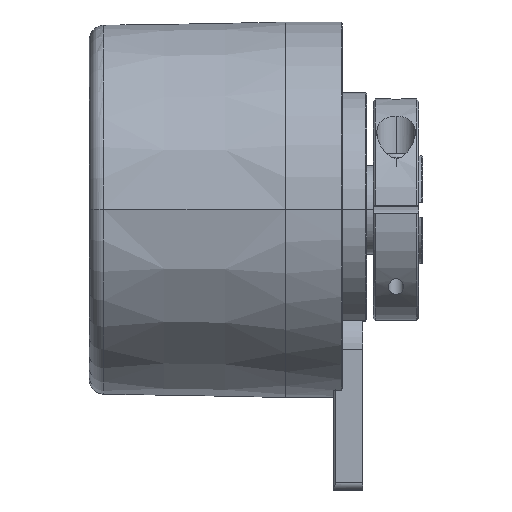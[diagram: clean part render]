
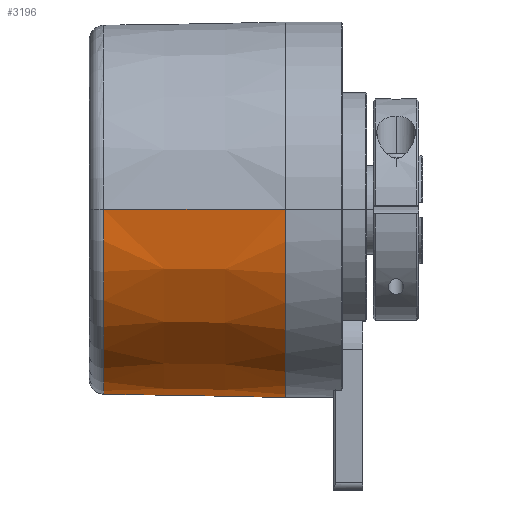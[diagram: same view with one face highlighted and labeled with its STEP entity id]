
A CAD part, top view. The second image highlights one B-rep face of the part: STEP entity #3196.
In plain terms, the highlighted conical face has half-angle 1 degrees and reference radius 25.4 mm.
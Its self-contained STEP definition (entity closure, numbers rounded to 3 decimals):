
#417 = ORIENTED_EDGE ( 'NONE', *, *, #3203, .T. ) ;
#439 = LINE ( 'NONE', #546, #545 ) ;
#450 = CARTESIAN_POINT ( 'NONE',  ( 5.5, 0., 25.4 ) ) ;
#486 = CARTESIAN_POINT ( 'NONE',  ( -19.035, 0., 24.972 ) ) ;
#544 = DIRECTION ( 'NONE',  ( 1., 0., 0.017 ) ) ;
#545 = VECTOR ( 'NONE', #544, 1000. ) ;
#546 = CARTESIAN_POINT ( 'NONE',  ( 5.5, 0., 25.4 ) ) ;
#2440 = CIRCLE ( 'NONE', #2616, 25.4 ) ;
#2612 = DIRECTION ( 'NONE',  ( 0., 0., -1. ) ) ;
#2614 = DIRECTION ( 'NONE',  ( -1., 0., 0. ) ) ;
#2615 = CARTESIAN_POINT ( 'NONE',  ( 5.5, 0., 0. ) ) ;
#2616 = AXIS2_PLACEMENT_3D ( 'NONE', #2615, #2614, #2612 ) ;
#2691 = B_SPLINE_CURVE_WITH_KNOTS ( 'NONE', 3,
 ( #3195, #3363, #3226, #3150 ),
 .UNSPECIFIED., .F., .F.,
 ( 4, 4 ),
 ( 0.002, 0.025 ),
 .UNSPECIFIED. ) ;
#2699 = DIRECTION ( 'NONE',  ( 0., 0., 1. ) ) ;
#2701 = DIRECTION ( 'NONE',  ( 1., 0., 0. ) ) ;
#2703 = CARTESIAN_POINT ( 'NONE',  ( 5.5, 0., 0. ) ) ;
#2705 = AXIS2_PLACEMENT_3D ( 'NONE', #2703, #2701, #2699 ) ;
#2706 = CONICAL_SURFACE ( 'NONE', #2705, 25.4, 0.017 ) ;
#2846 = VERTEX_POINT ( 'NONE', #486 ) ;
#2848 = EDGE_CURVE ( 'NONE', #2846, #2849, #439, .T. ) ;
#2849 = VERTEX_POINT ( 'NONE', #450 ) ;
#2907 = FACE_OUTER_BOUND ( 'NONE', #3197, .T. ) ;
#3076 = CARTESIAN_POINT ( 'NONE',  ( 4.62, -15.701, -19.947 ) ) ;
#3078 = CARTESIAN_POINT ( 'NONE',  ( 4.436, -15.89, -19.792 ) ) ;
#3079 = CARTESIAN_POINT ( 'NONE',  ( 4.37, -15.95, -19.742 ) ) ;
#3132 = CARTESIAN_POINT ( 'NONE',  ( 3.5, -16.319, -19.418 ) ) ;
#3145 = ORIENTED_EDGE ( 'NONE', *, *, #3146, .T. ) ;
#3146 = EDGE_CURVE ( 'NONE', #3205, #2849, #2440, .T. ) ;
#3150 = CARTESIAN_POINT ( 'NONE',  ( -19., -16.728, -18.542 ) ) ;
#3196 = ADVANCED_FACE ( 'NONE', ( #2907 ), #2706, .T. ) ;
#3195 = CARTESIAN_POINT ( 'NONE',  ( 3.5, -16.319, -19.418 ) ) ;
#3197 = EDGE_LOOP ( 'NONE', ( #3198, #3199, #3200, #3201, #417, #3145 ) ) ;
#3198 = ORIENTED_EDGE ( 'NONE', *, *, #2848, .F. ) ;
#3199 = ORIENTED_EDGE ( 'NONE', *, *, #3326, .T. ) ;
#3200 = ORIENTED_EDGE ( 'NONE', *, *, #3329, .T. ) ;
#3201 = ORIENTED_EDGE ( 'NONE', *, *, #3202, .F. ) ;
#3202 = EDGE_CURVE ( 'NONE', #3204, #3215, #2691, .T. ) ;
#3203 = EDGE_CURVE ( 'NONE', #3204, #3205, #3377, .T. ) ;
#3204 = VERTEX_POINT ( 'NONE', #3244 ) ;
#3205 = VERTEX_POINT ( 'NONE', #3311 ) ;
#3215 = VERTEX_POINT ( 'NONE', #3589 ) ;
#3219 = CARTESIAN_POINT ( 'NONE',  ( 3.902, -16.252, -19.484 ) ) ;
#3220 = CARTESIAN_POINT ( 'NONE',  ( 3.708, -16.315, -19.426 ) ) ;
#3226 = CARTESIAN_POINT ( 'NONE',  ( -11.501, -16.586, -18.846 ) ) ;
#3235 = CARTESIAN_POINT ( 'NONE',  ( 5.317, -14.347, -20.96 ) ) ;
#3237 = CARTESIAN_POINT ( 'NONE',  ( 5.21, -14.672, -20.731 ) ) ;
#3238 = CARTESIAN_POINT ( 'NONE',  ( 4.995, -15.13, -20.392 ) ) ;
#3244 = CARTESIAN_POINT ( 'NONE',  ( 3.5, -16.319, -19.418 ) ) ;
#3248 = CARTESIAN_POINT ( 'NONE',  ( 4.914, -15.278, -20.28 ) ) ;
#3250 = CARTESIAN_POINT ( 'NONE',  ( 4.727, -15.562, -20.058 ) ) ;
#3253 = CARTESIAN_POINT ( 'NONE',  ( 5.5, -12.989, -21.828 ) ) ;
#3255 = CARTESIAN_POINT ( 'NONE',  ( 5.5, -13.341, -21.618 ) ) ;
#3257 = CARTESIAN_POINT ( 'NONE',  ( 5.461, -13.682, -21.403 ) ) ;
#3261 = CARTESIAN_POINT ( 'NONE',  ( 4.228, -16.062, -19.648 ) ) ;
#3262 = CARTESIAN_POINT ( 'NONE',  ( 4.151, -16.115, -19.603 ) ) ;
#3311 = CARTESIAN_POINT ( 'NONE',  ( 5.5, -12.989, -21.828 ) ) ;
#3326 = EDGE_CURVE ( 'NONE', #2846, #3330, #4581, .T. ) ;
#3329 = EDGE_CURVE ( 'NONE', #3330, #3215, #4509, .T. ) ;
#3330 = VERTEX_POINT ( 'NONE', #4776 ) ;
#3363 = CARTESIAN_POINT ( 'NONE',  ( -4.001, -16.45, -19.137 ) ) ;
#3377 = B_SPLINE_CURVE_WITH_KNOTS ( 'NONE', 3,
 ( #3132, #3220, #3219, #3262, #3261, #3079, #3078, #3076, #3250, #3248, #3238, #3237, #3235, #3257, #3255, #3253 ),
 .UNSPECIFIED., .F., .F.,
 ( 4, 2, 2, 2, 2, 2, 2, 4 ),
 ( 0., 0.001, 0.001, 0.001, 0.002, 0.002, 0.004, 0.005 ),
 .UNSPECIFIED. ) ;
#3589 = CARTESIAN_POINT ( 'NONE',  ( -19., -16.728, -18.542 ) ) ;
#4501 = CARTESIAN_POINT ( 'NONE',  ( -19.012, -16.728, -18.541 ) ) ;
#4502 = CARTESIAN_POINT ( 'NONE',  ( -19.023, -16.728, -18.541 ) ) ;
#4503 = CARTESIAN_POINT ( 'NONE',  ( -19.035, -16.728, -18.541 ) ) ;
#4509 = B_SPLINE_CURVE_WITH_KNOTS ( 'NONE', 3,
 ( #4503, #4502, #4501, #4671 ),
 .UNSPECIFIED., .F., .F.,
 ( 4, 4 ),
 ( 0., 0. ),
 .UNSPECIFIED. ) ;
#4575 = DIRECTION ( 'NONE',  ( 0., 0., -1. ) ) ;
#4577 = DIRECTION ( 'NONE',  ( 1., 0., 0. ) ) ;
#4578 = CARTESIAN_POINT ( 'NONE',  ( -19.035, 0., 0. ) ) ;
#4580 = AXIS2_PLACEMENT_3D ( 'NONE', #4578, #4577, #4575 ) ;
#4581 = CIRCLE ( 'NONE', #4580, 24.972 ) ;
#4671 = CARTESIAN_POINT ( 'NONE',  ( -19., -16.728, -18.542 ) ) ;
#4776 = CARTESIAN_POINT ( 'NONE',  ( -19.035, -16.728, -18.541 ) ) ;
